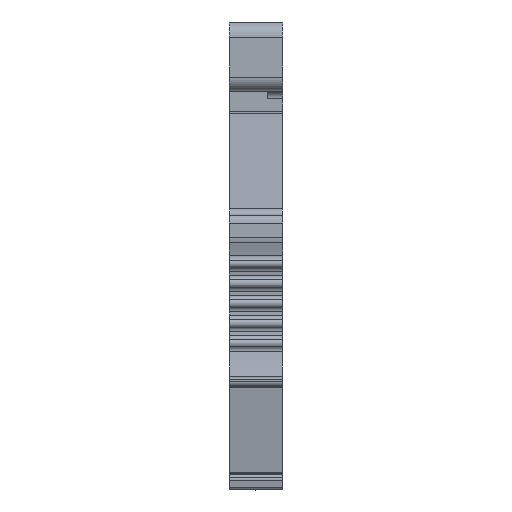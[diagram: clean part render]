
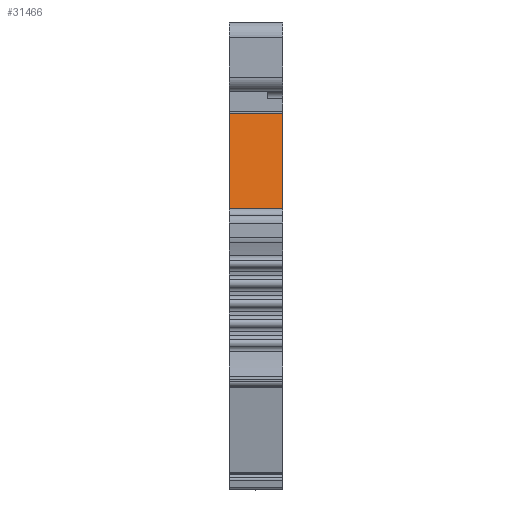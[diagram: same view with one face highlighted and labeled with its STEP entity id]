
A CAD part, left-side view. The second image highlights one B-rep face of the part: STEP entity #31466.
In plain terms, the highlighted planar face has unit normal (-0.99, 0, 0.139).
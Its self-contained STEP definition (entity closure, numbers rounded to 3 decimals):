
#357=DIRECTION('',(-0.139,0.,-0.99));
#358=VECTOR('',#357,6.265);
#359=CARTESIAN_POINT('',(2.715,0.,24.535));
#360=LINE('',#359,#358);
#2261=DIRECTION('',(0.139,0.,0.99));
#2262=VECTOR('',#2261,6.265);
#2263=CARTESIAN_POINT('',(1.843,-3.5,18.33));
#2264=LINE('',#2263,#2262);
#9078=DIRECTION('',(0.,-1.,0.));
#9079=VECTOR('',#9078,3.5);
#9080=CARTESIAN_POINT('',(1.843,0.,18.33));
#9081=LINE('',#9080,#9079);
#9090=DIRECTION('',(0.,1.,0.));
#9091=VECTOR('',#9090,3.5);
#9092=CARTESIAN_POINT('',(2.715,-3.5,24.535));
#9093=LINE('',#9092,#9091);
#15505=CARTESIAN_POINT('',(2.715,0.,24.535));
#15506=VERTEX_POINT('',#15505);
#15507=CARTESIAN_POINT('',(1.843,0.,18.33));
#15508=VERTEX_POINT('',#15507);
#16273=CARTESIAN_POINT('',(1.843,-3.5,18.33));
#16274=VERTEX_POINT('',#16273);
#16275=CARTESIAN_POINT('',(2.715,-3.5,24.535));
#16276=VERTEX_POINT('',#16275);
#31454=CARTESIAN_POINT('',(2.225,-3.588,21.043));
#31455=DIRECTION('',(0.99,0.,-0.139));
#31456=DIRECTION('',(-0.139,0.,-0.99));
#31457=AXIS2_PLACEMENT_3D('',#31454,#31455,#31456);
#31458=PLANE('',#31457);
#31459=ORIENTED_EDGE('',*,*,#31446,.F.);
#31460=ORIENTED_EDGE('',*,*,#19355,.F.);
#31462=ORIENTED_EDGE('',*,*,#31461,.F.);
#31463=ORIENTED_EDGE('',*,*,#20251,.F.);
#31464=EDGE_LOOP('',(#31459,#31460,#31462,#31463));
#31465=FACE_OUTER_BOUND('',#31464,.F.);
#31466=ADVANCED_FACE('',(#31465),#31458,.F.);
#19355=EDGE_CURVE('',#15506,#15508,#360,.T.);
#20251=EDGE_CURVE('',#16274,#16276,#2264,.T.);
#31446=EDGE_CURVE('',#15508,#16274,#9081,.T.);
#31461=EDGE_CURVE('',#16276,#15506,#9093,.T.);
